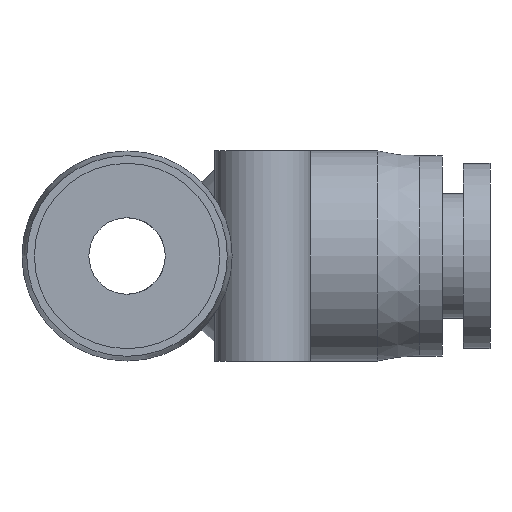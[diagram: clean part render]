
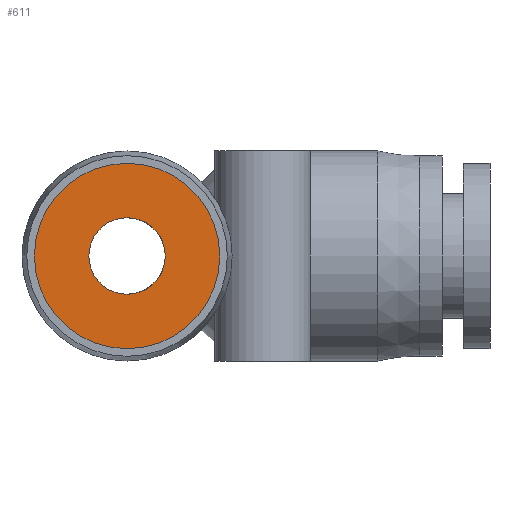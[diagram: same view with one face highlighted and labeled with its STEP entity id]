
A CAD part, left-side view. The second image highlights one B-rep face of the part: STEP entity #611.
In plain terms, the highlighted planar face has unit normal (-1, 0, 0).
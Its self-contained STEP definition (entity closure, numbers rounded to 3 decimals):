
#125=CARTESIAN_POINT('',(-19.0,-2.,0.));
#126=VERTEX_POINT('',#125);
#127=CARTESIAN_POINT('',(-19.0,0.0,0.0));
#128=DIRECTION('',(1.0,0.0,0.0));
#129=DIRECTION('',(0.0,1.0,0.0));
#130=AXIS2_PLACEMENT_3D('',#127,#128,#129);
#131=CIRCLE('',#130,2.);
#132=EDGE_CURVE('',#126,#126,#131,.T.);
#592=CARTESIAN_POINT('',(-19.0,2.425,0.0));
#593=DIRECTION('',(-1.0,0.0,0.0));
#594=DIRECTION('',(0.0,0.0,1.0));
#595=AXIS2_PLACEMENT_3D('',#592,#593,#594);
#596=PLANE('',#595);
#597=CARTESIAN_POINT('',(-19.0,4.85,0.0));
#598=VERTEX_POINT('',#597);
#599=CARTESIAN_POINT('',(-19.0,0.0,0.0));
#600=DIRECTION('',(1.0,0.0,0.0));
#601=DIRECTION('',(0.0,1.0,0.0));
#602=AXIS2_PLACEMENT_3D('',#599,#600,#601);
#603=CIRCLE('',#602,4.85);
#604=EDGE_CURVE('',#598,#598,#603,.T.);
#605=ORIENTED_EDGE('',*,*,#604,.F.);
#606=EDGE_LOOP('',(#605));
#607=FACE_OUTER_BOUND('',#606,.T.);
#608=ORIENTED_EDGE('',*,*,#132,.T.);
#609=EDGE_LOOP('',(#608));
#610=FACE_BOUND('',#609,.T.);
#611=ADVANCED_FACE('',(#607,#610),#596,.T.);
